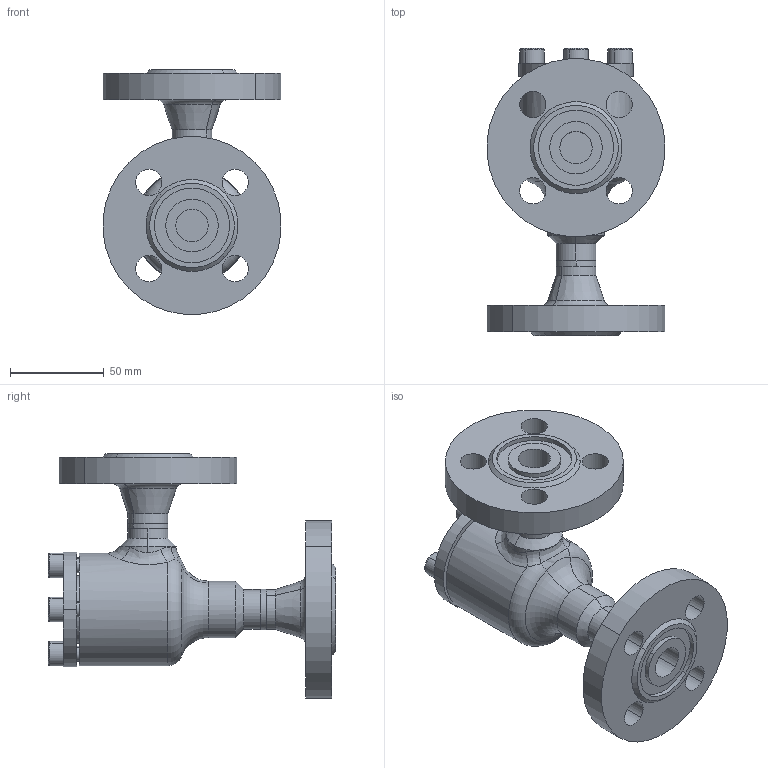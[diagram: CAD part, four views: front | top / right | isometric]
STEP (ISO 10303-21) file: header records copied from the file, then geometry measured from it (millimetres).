
FILE_DESCRIPTION (( 'STEP AP214' ), '1' );
FILE_NAME ('SS52420D10-DN015_DIN-FL-N_PS40.STEP', '2006-05-02T05:54:04', ( 'Herr Grams' ), ( 'AWP GmbH' ), 'SwSTEP 2.0', 'SolidWorks 2002296', '' );
FILE_SCHEMA (( 'AUTOMOTIVE_DESIGN' ));
Length unit declared in the file: millimetre
Products named in the file (9): SS52420D10-DN015_DIN-FL-N_PS40; SS52300K10_Deck+Schr-DN10-20_Standard; Deckel52300K10-DN10-20_Standard; Zylinderschraube-DIN912_M 8x 16; Gehäuse-kpl16420-DN015_DIN_PS40_Standard; Gehäuse16400-DN015_Standard; Flansch-DIN2635-Nut_PS40_DIN-Flansch-DN015_PS40-Nut; bead16420-Geh-015-2_Standard; bead16420-Geh-015-1_Standard
Assembly tree (12 placements, depth 3):
  SS52420D10-DN015_DIN-FL-N_PS40
    SS52300K10_Deck+Schr-DN10-20_Standard
      Zylinderschraube-DIN912_M 8x 16  x4
      Deckel52300K10-DN10-20_Standard
    Gehäuse-kpl16420-DN015_DIN_PS40_Standard
      bead16420-Geh-015-2_Standard
      bead16420-Geh-015-1_Standard
      Gehäuse16400-DN015_Standard
      Flansch-DIN2635-Nut_PS40_DIN-Flansch-DN015_PS40-Nut  x2
Bounding box: 94.64 x 153 x 130.32 mm (x, y, z)
Volume: 389650.7 mm3; surface area: 83106.3 mm2
Topology: 10 solids, 10 shells, 215 faces, 474 edges, 297 vertices
Faces by surface type: cylinder 85, plane 63, cone 36, bspline 16, torus 15
Entity records: 15902 total; most frequent: CARTESIAN_POINT 12420, DIRECTION 642, ORIENTED_EDGE 576, EDGE_CURVE 288, AXIS2_PLACEMENT_3D 273, VERTEX_POINT 179, EDGE_LOOP 159, CIRCLE 143
